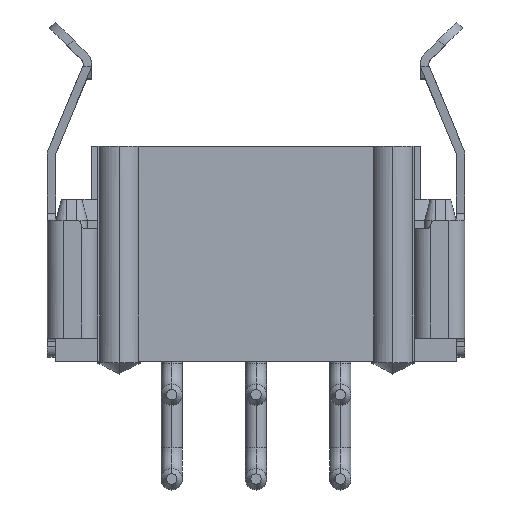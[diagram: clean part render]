
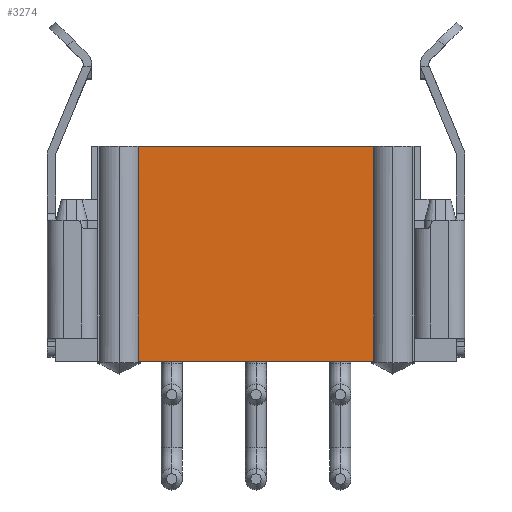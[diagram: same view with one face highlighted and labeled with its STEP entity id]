
A CAD part, top view. The second image highlights one B-rep face of the part: STEP entity #3274.
In plain terms, the highlighted planar face has unit normal (0, 0, 1).
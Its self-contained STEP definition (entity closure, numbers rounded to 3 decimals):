
#82=DIRECTION('',(-1.,0.,0.));
#83=VECTOR('',#82,5.583);
#84=CARTESIAN_POINT('',(2.792,0.,2.775));
#85=LINE('',#84,#83);
#526=DIRECTION('',(-1.,0.,0.));
#527=VECTOR('',#526,5.583);
#528=CARTESIAN_POINT('',(2.792,5.1,2.775));
#529=LINE('',#528,#527);
#670=DIRECTION('',(0.,1.,0.));
#671=VECTOR('',#670,5.1);
#672=CARTESIAN_POINT('',(-2.792,0.,2.775));
#673=LINE('',#672,#671);
#677=DIRECTION('',(0.,-1.,0.));
#678=VECTOR('',#677,5.1);
#679=CARTESIAN_POINT('',(2.792,5.1,2.775));
#680=LINE('',#679,#678);
#2802=CARTESIAN_POINT('',(2.792,0.,2.775));
#2804=VERTEX_POINT('',#2802);
#2810=CARTESIAN_POINT('',(2.792,5.1,2.775));
#2811=VERTEX_POINT('',#2810);
#2822=CARTESIAN_POINT('',(-2.792,0.,2.775));
#2824=VERTEX_POINT('',#2822);
#2830=CARTESIAN_POINT('',(-2.792,5.1,2.775));
#2831=VERTEX_POINT('',#2830);
#3261=CARTESIAN_POINT('',(3.75,0.,2.775));
#3262=DIRECTION('',(0.,0.,1.));
#3263=DIRECTION('',(-1.,0.,0.));
#3264=AXIS2_PLACEMENT_3D('',#3261,#3262,#3263);
#3265=PLANE('',#3264);
#3267=ORIENTED_EDGE('',*,*,#3266,.T.);
#3268=ORIENTED_EDGE('',*,*,#3195,.F.);
#3270=ORIENTED_EDGE('',*,*,#3269,.T.);
#3271=ORIENTED_EDGE('',*,*,#2955,.T.);
#3272=EDGE_LOOP('',(#3267,#3268,#3270,#3271));
#3273=FACE_OUTER_BOUND('',#3272,.F.);
#2955=EDGE_CURVE('',#2804,#2824,#85,.T.);
#3195=EDGE_CURVE('',#2811,#2831,#529,.T.);
#3266=EDGE_CURVE('',#2824,#2831,#673,.T.);
#3269=EDGE_CURVE('',#2811,#2804,#680,.T.);
#3274=ADVANCED_FACE('',(#3273),#3265,.T.);
